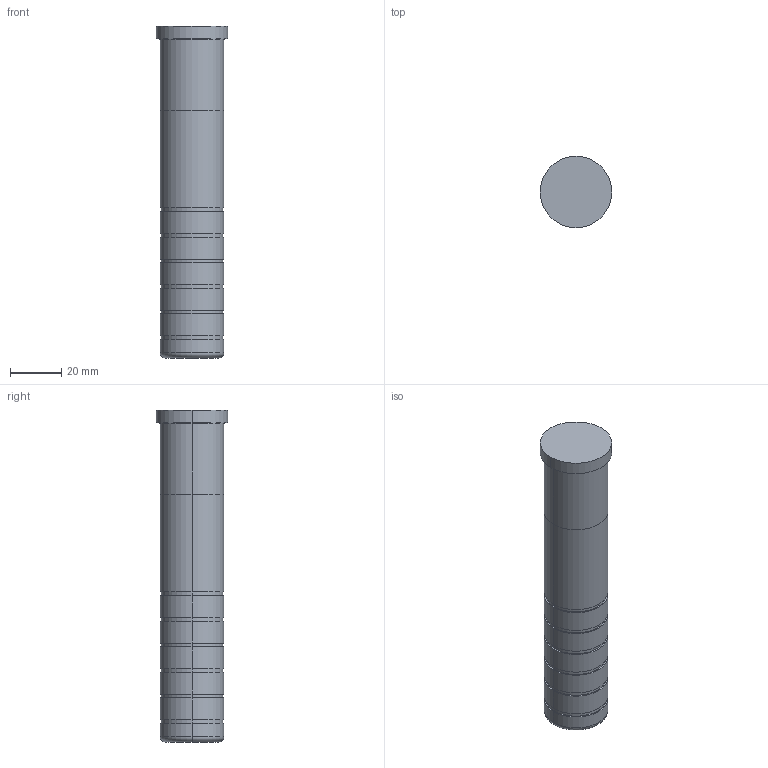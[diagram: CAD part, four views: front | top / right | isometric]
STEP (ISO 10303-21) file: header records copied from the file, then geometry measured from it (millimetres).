
FILE_DESCRIPTION(/* description */ (''),/* implementation_level */ '2;1');
FILE_NAME(/* name */ '3d_sgoh25-130_05206_r00.stp',/* time_stamp */ '2011-01-10T14:11:08+09:00',/* author */ ('MISUMI'),/* organization */ (''),/* preprocessor_version */ 'ST-DEVELOPER v11',/* originating_system */ 'UGS - NX 5.0',/* authorisation */ '');
FILE_SCHEMA (('CONFIG_CONTROL_DESIGN'));
Length unit declared in the file: millimetre
Products named in the file (1): 3d_sgoh25-130_05206_r00
Bounding box: 28 x 28 x 130 mm (x, y, z)
Volume: 64027.7 mm3; surface area: 11844.7 mm2
Topology: 1 solids, 1 shells, 49 faces, 96 edges, 62 vertices
Faces by surface type: cylinder 30, plane 15, torus 4
Entity records: 1374 total; most frequent: DIRECTION 262, CARTESIAN_POINT 208, ORIENTED_EDGE 192, AXIS2_PLACEMENT_3D 116, EDGE_CURVE 96, CIRCLE 66, EDGE_LOOP 62, VERTEX_POINT 62
